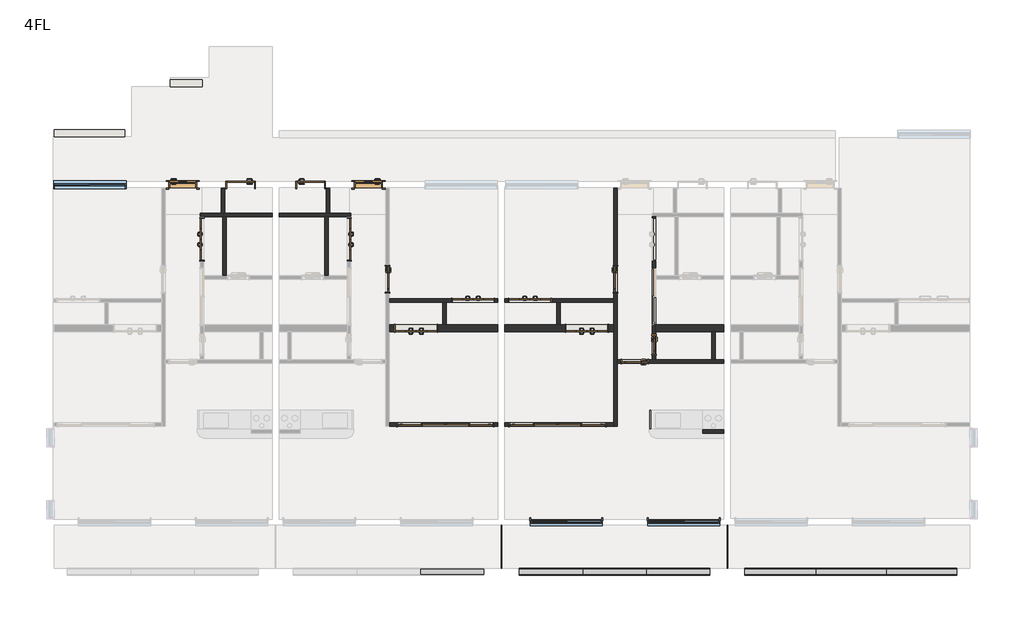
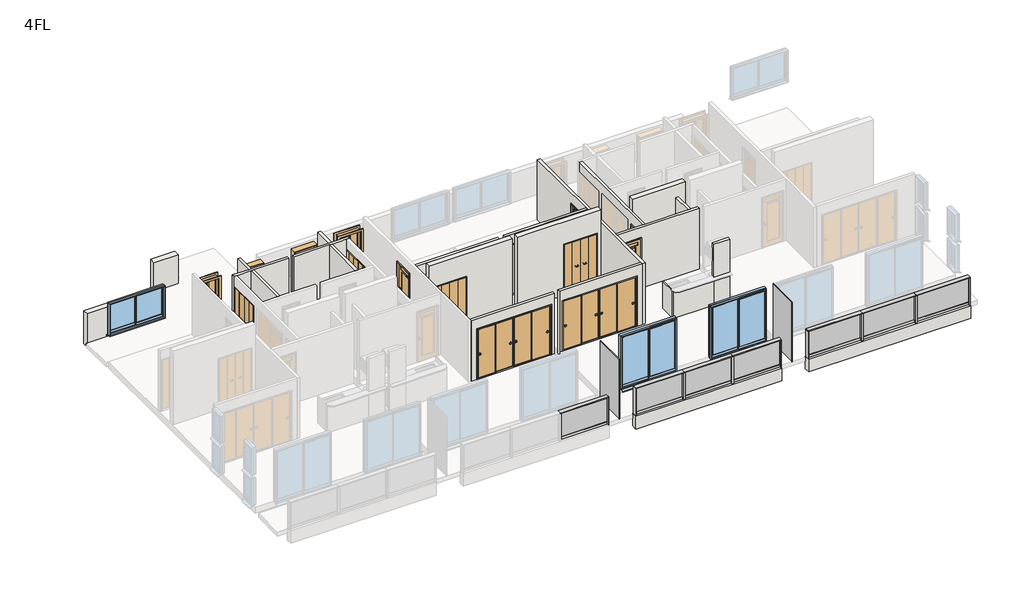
# One storey, part 2 of 3: 26 walls, 16 doors, 16 members, 9 plates, 3 windows.
"""IFC4 building model written with IfcOpenShell, lengths in millimetres."""

from ifc_helpers import new_model, si_unit, frame, origin, place, context, project, spatial, polyline, outline, extrude, faceted_brep, transform, mapped, element, save
from components import door_800x2000_a7d1584b, door_800x2000_010bfebf, w1200h2000_98cacc9b, w1200h2000_ebe1d490, w1200h2000_6a144d60, w1200h2000_99d19fb3, w2800h2000_670b855b, w2800h2000_04aa64cd, w600h2000_7f2747f4, w800h2000_1d97c4d4, w800h2000_0ab7d42c, w800h2000_13e9f519, w800h2000_ccb03061, member_25x150_3f8205e2, member_25x150_f694351b, member_25x150_e95393f9, member_70x150_851c8a9b, plate_6aa9e5b9, plate_9f48129f, plate_365944b3, plate_b830f844, plate_2f85ae4c, window_2000x1200_fc91d1cf, window_2000x2000_f1ff98da

model = new_model("IFC4")

# Units and contexts
model_context = context("Model", 3, world=origin())
ifc_project = project(units=[si_unit("LENGTHUNIT", "METRE", prefix="MILLI")], contexts=[model_context])

# Site, building, storey
site = spatial("IfcSite", under=ifc_project)
building = spatial("IfcBuilding", under=site)
storey = spatial("IfcBuildingStorey", under=building, Name="4FL", Elevation=10000.0)

# Doors
placement = place(None, origin())
door_800x2000_shape = door_800x2000_a7d1584b(model_context)
element("IfcDoor", 1, ObjectType="片開き3 : 800x2000", at=placement, inside=storey, context=model_context, shape_type="MappedRepresentation", body=[
    mapped(door_800x2000_shape, transform((-7378.7187246, -5726.3671638, 10000.0), x_axis=(1.0, 0.0, 0.0), y_axis=(0.0, 1.0, 0.0), z_axis=(0.0, 0.0, 1.0))),
])
door_800x2000_2_shape = door_800x2000_010bfebf(model_context)
element("IfcDoor", 2, ObjectType="片開き3 : 800x2000", at=placement, inside=storey, context=model_context, shape_type="MappedRepresentation", body=[
    mapped(door_800x2000_2_shape, transform((-2078.7187246, -5726.3671638, 10000.0), x_axis=(-1.0, 0.0, 0.0), y_axis=(0.0, -1.0, 0.0), z_axis=(0.0, 0.0, 1.0))),
])
w1200h2000_shape = w1200h2000_98cacc9b(model_context)
element("IfcDoor", 3, ObjectType="木製折戸 : w1200h2000", at=placement, inside=storey, context=model_context, shape_type="MappedRepresentation", body=[
    mapped(w1200h2000_shape, transform((4158.7812754, -9820.1171638, 10100.0), x_axis=(-1.0, 0.0, 0.0), y_axis=(0.0, -1.0, 0.0), z_axis=(0.0, 0.0, 1.0))),
])
w1200h2000_2_shape = w1200h2000_ebe1d490(model_context)
element("IfcDoor", 4, ObjectType="木製折戸 : w1200h2000", at=placement, inside=storey, context=model_context, shape_type="MappedRepresentation", body=[
    mapped(w1200h2000_2_shape, transform((-716.2187246, -9820.1171638, 10100.0), x_axis=(1.0, 0.0, 0.0), y_axis=(0.0, 1.0, 0.0), z_axis=(0.0, 0.0, 1.0))),
])
w1200h2000_3_shape = w1200h2000_6a144d60(model_context)
element("IfcDoor", 5, ObjectType="木製折戸 : w1200h2000", at=placement, inside=storey, context=model_context, shape_type="MappedRepresentation", body=[
    mapped(w1200h2000_3_shape, transform((-6828.7187246, -7280.1171638, 10100.0), x_axis=(0.0, 1.0, 0.0), y_axis=(-1.0, 0.0, 0.0), z_axis=(0.0, 0.0, 1.0))),
])
element("IfcDoor", 6, ObjectType="木製折戸 : w1200h2000", at=placement, inside=storey, context=model_context, shape_type="MappedRepresentation", body=[
    mapped(w1200h2000_3_shape, transform((2533.7812754, -9020.1171638, 10100.0), x_axis=(1.0, 0.0, 0.0), y_axis=(0.0, 1.0, 0.0), z_axis=(0.0, 0.0, 1.0))),
])
w1200h2000_4_shape = w1200h2000_99d19fb3(model_context)
element("IfcDoor", 7, ObjectType="木製折戸 : w1200h2000", at=placement, inside=storey, context=model_context, shape_type="MappedRepresentation", body=[
    mapped(w1200h2000_4_shape, transform((908.7812754, -9020.1171638, 10100.0), x_axis=(-1.0, 0.0, 0.0), y_axis=(0.0, -1.0, 0.0), z_axis=(0.0, 0.0, 1.0))),
])
element("IfcDoor", 8, ObjectType="木製折戸 : w1200h2000", at=placement, inside=storey, context=model_context, shape_type="MappedRepresentation", body=[
    mapped(w1200h2000_4_shape, transform((-2628.7187246, -7280.1171638, 10100.0), x_axis=(0.0, 1.0, 0.0), y_axis=(-1.0, 0.0, 0.0), z_axis=(0.0, 0.0, 1.0))),
])
w2800h2000_shape = w2800h2000_670b855b(model_context)
element("IfcDoor", 9, ObjectType="引違い 4 枚 2 溝_襖 : w2800h2000", at=placement, inside=storey, context=model_context, shape_type="MappedRepresentation", body=[
    mapped(w2800h2000_shape, transform((3315.7457714, -12570.1171638, 10100.0), x_axis=(-1.0, 0.0, 0.0), y_axis=(0.0, -1.0, 0.0), z_axis=(0.0, 0.0, 1.0))),
])
w2800h2000_2_shape = w2800h2000_04aa64cd(model_context)
element("IfcDoor", 10, ObjectType="引違い 4 枚 2 溝_襖 : w2800h2000", at=placement, inside=storey, context=model_context, shape_type="MappedRepresentation", body=[
    mapped(w2800h2000_2_shape, transform((126.8167793, -12570.1171638, 10100.0), x_axis=(1.0, 0.0, 0.0), y_axis=(0.0, 1.0, 0.0), z_axis=(0.0, 0.0, 1.0))),
])
w600h2000_shape = w600h2000_7f2747f4(model_context)
element("IfcDoor", 11, ObjectType="片開戸CL2058 : w600h2000", at=placement, inside=storey, context=model_context, shape_type="MappedRepresentation", body=[
    mapped(w600h2000_shape, transform((6071.2812754, -10295.1171638, 10100.0), x_axis=(0.0, -1.0, 0.0), y_axis=(1.0, 0.0, 0.0), z_axis=(0.0, 0.0, 1.0))),
])
w800h2000_shape = w800h2000_1d97c4d4(model_context)
element("IfcDoor", 12, ObjectType="片開 : w800h2000", at=placement, inside=storey, context=model_context, shape_type="MappedRepresentation", body=[
    mapped(w800h2000_shape, transform((-5728.7187246, -5726.3671638, 10000.0), x_axis=(-1.0, 0.0, 0.0), y_axis=(0.0, -1.0, 0.0), z_axis=(0.0, 0.0, 1.0))),
])
w800h2000_2_shape = w800h2000_0ab7d42c(model_context)
element("IfcDoor", 13, ObjectType="片開 : w800h2000", at=placement, inside=storey, context=model_context, shape_type="MappedRepresentation", body=[
    mapped(w800h2000_2_shape, transform((-3728.7187246, -5726.3671638, 10000.0), x_axis=(1.0, 0.0, 0.0), y_axis=(0.0, 1.0, 0.0), z_axis=(0.0, 0.0, 1.0))),
])
w800h2000_3_shape = w800h2000_13e9f519(model_context)
element("IfcDoor", 14, ObjectType="片開戸CL2058 : w800h2000", at=placement, inside=storey, context=model_context, shape_type="MappedRepresentation", body=[
    mapped(w800h2000_3_shape, transform((4971.2812754, -8420.1171638, 10100.0), x_axis=(0.0, -1.0, 0.0), y_axis=(1.0, 0.0, 0.0), z_axis=(0.0, 0.0, 1.0))),
])
w800h2000_4_shape = w800h2000_ccb03061(model_context)
element("IfcDoor", 15, ObjectType="片開戸CL2058 : w800h2000", at=placement, inside=storey, context=model_context, shape_type="MappedRepresentation", body=[
    mapped(w800h2000_4_shape, transform((-1528.7187246, -8420.1171638, 10100.0), x_axis=(0.0, -1.0, 0.0), y_axis=(1.0, 0.0, 0.0), z_axis=(0.0, 0.0, 1.0))),
])
element("IfcDoor", 16, ObjectType="片開戸CL2058 : w800h2000", at=placement, inside=storey, context=model_context, shape_type="MappedRepresentation", body=[
    mapped(w800h2000_4_shape, transform((5521.2812754, -10770.1171638, 10100.0), x_axis=(-1.0, 0.0, 0.0), y_axis=(0.0, -1.0, 0.0), z_axis=(0.0, 0.0, 1.0))),
])

# Members
member_25x150_shape = member_25x150_3f8205e2(model_context)
element("IfcMember", 17, ObjectType="長方形のマリオン : 25x150", at=placement, inside=storey, context=model_context, shape_type="MappedRepresentation", body=[
    mapped(member_25x150_shape, transform((1221.2812754, -16770.1171638, 10000.0), x_axis=(1.0, 0.0, 0.0), y_axis=(0.0, -1.0, 0.0), z_axis=(0.0, 0.0, -1.0))),
])
element("IfcMember", 18, ObjectType="長方形のマリオン : 25x150", at=placement, inside=storey, context=model_context, shape_type="MappedRepresentation", body=[
    mapped(member_25x150_shape, transform((7671.2812754, -16770.1171638, 10000.0), x_axis=(1.0, 0.0, 0.0), y_axis=(0.0, -1.0, 0.0), z_axis=(0.0, 0.0, -1.0))),
])
element("IfcMember", 19, ObjectType="長方形のマリオン : 25x150", at=placement, inside=storey, context=model_context, shape_type="MappedRepresentation", body=[
    mapped(member_25x150_shape, transform((14721.2812754, -16770.1171638, 10000.0), x_axis=(1.0, 0.0, 0.0), y_axis=(0.0, -1.0, 0.0), z_axis=(0.0, 0.0, -1.0))),
])
element("IfcMember", 20, ObjectType="長方形のマリオン : 25x150", at=placement, inside=storey, context=model_context, shape_type="MappedRepresentation", body=[
    mapped(member_25x150_shape, transform((2221.2812754, -16770.1171638, 11075.0), x_axis=(-1.0, 0.0, 0.0), y_axis=(0.0, -1.0, 0.0), z_axis=(0.0, 0.0, 1.0))),
])
element("IfcMember", 21, ObjectType="長方形のマリオン : 25x150", at=placement, inside=storey, context=model_context, shape_type="MappedRepresentation", body=[
    mapped(member_25x150_shape, transform((8671.2812754, -16770.1171638, 11075.0), x_axis=(-1.0, 0.0, 0.0), y_axis=(0.0, -1.0, 0.0), z_axis=(0.0, 0.0, 1.0))),
])
member_25x150_2_shape = member_25x150_f694351b(model_context)
element("IfcMember", 22, ObjectType="長方形のマリオン : 25x150", at=placement, inside=storey, context=model_context, shape_type="MappedRepresentation", body=[
    mapped(member_25x150_2_shape, transform((1221.2812754, -16770.1171638, 11100.0), x_axis=(0.0, 0.0, 1.0), y_axis=(0.0, -1.0, 0.0), z_axis=(1.0, 0.0, 0.0))),
])
element("IfcMember", 23, ObjectType="長方形のマリオン : 25x150", at=placement, inside=storey, context=model_context, shape_type="MappedRepresentation", body=[
    mapped(member_25x150_2_shape, transform((7671.2812754, -16770.1171638, 11100.0), x_axis=(0.0, 0.0, 1.0), y_axis=(0.0, -1.0, 0.0), z_axis=(1.0, 0.0, 0.0))),
])
element("IfcMember", 24, ObjectType="長方形のマリオン : 25x150", at=placement, inside=storey, context=model_context, shape_type="MappedRepresentation", body=[
    mapped(member_25x150_2_shape, transform((4037.947942, -16770.1171638, 11100.0), x_axis=(0.0, 0.0, 1.0), y_axis=(0.0, -1.0, 0.0), z_axis=(1.0, 0.0, 0.0))),
])
element("IfcMember", 25, ObjectType="長方形のマリオン : 25x150", at=placement, inside=storey, context=model_context, shape_type="MappedRepresentation", body=[
    mapped(member_25x150_2_shape, transform((5854.6146087, -16770.1171638, 11100.0), x_axis=(0.0, 0.0, 1.0), y_axis=(0.0, -1.0, 0.0), z_axis=(1.0, 0.0, 0.0))),
])
member_25x150_3_shape = member_25x150_e95393f9(model_context)
element("IfcMember", 26, ObjectType="長方形のマリオン : 25x150", at=placement, inside=storey, context=model_context, shape_type="MappedRepresentation", body=[
    mapped(member_25x150_3_shape, transform((14721.2812754, -16770.1171638, 11100.0), x_axis=(0.0, 0.0, 1.0), y_axis=(0.0, -1.0, 0.0), z_axis=(1.0, 0.0, 0.0))),
])
element("IfcMember", 27, ObjectType="長方形のマリオン : 25x150", at=placement, inside=storey, context=model_context, shape_type="MappedRepresentation", body=[
    mapped(member_25x150_3_shape, transform((10687.947942, -16770.1171638, 11100.0), x_axis=(0.0, 0.0, 1.0), y_axis=(0.0, -1.0, 0.0), z_axis=(1.0, 0.0, 0.0))),
])
element("IfcMember", 28, ObjectType="長方形のマリオン : 25x150", at=placement, inside=storey, context=model_context, shape_type="MappedRepresentation", body=[
    mapped(member_25x150_3_shape, transform((12704.6146087, -16770.1171638, 11100.0), x_axis=(0.0, 0.0, 1.0), y_axis=(0.0, -1.0, 0.0), z_axis=(1.0, 0.0, 0.0))),
])
member_70x150_shape = member_70x150_851c8a9b(model_context)
element("IfcMember", 29, ObjectType="長方形のマリオン : 70x150", at=placement, inside=storey, context=model_context, shape_type="MappedRepresentation", body=[
    mapped(member_70x150_shape, transform((4037.947942, -16770.1171638, 10000.0), x_axis=(1.0, 0.0, 0.0), y_axis=(0.0, -1.0, 0.0), z_axis=(0.0, 0.0, -1.0))),
])
element("IfcMember", 30, ObjectType="長方形のマリオン : 70x150", at=placement, inside=storey, context=model_context, shape_type="MappedRepresentation", body=[
    mapped(member_70x150_shape, transform((5854.6146087, -16770.1171638, 10000.0), x_axis=(1.0, 0.0, 0.0), y_axis=(0.0, -1.0, 0.0), z_axis=(0.0, 0.0, -1.0))),
])
element("IfcMember", 31, ObjectType="長方形のマリオン : 70x150", at=placement, inside=storey, context=model_context, shape_type="MappedRepresentation", body=[
    mapped(member_70x150_shape, transform((10687.947942, -16770.1171638, 10000.0), x_axis=(1.0, 0.0, 0.0), y_axis=(0.0, -1.0, 0.0), z_axis=(0.0, 0.0, -1.0))),
])
element("IfcMember", 32, ObjectType="長方形のマリオン : 70x150", at=placement, inside=storey, context=model_context, shape_type="MappedRepresentation", body=[
    mapped(member_70x150_shape, transform((12704.6146087, -16770.1171638, 10000.0), x_axis=(1.0, 0.0, 0.0), y_axis=(0.0, -1.0, 0.0), z_axis=(0.0, 0.0, -1.0))),
])

# Plates
plate_shape = plate_6aa9e5b9(model_context)
element("IfcPlate", 33, ObjectType="システム パネル : 標準", at=placement, inside=storey, context=model_context, shape_type="MappedRepresentation", body=[
    mapped(plate_shape, transform((1721.2812754, -16056.9921638, 9950.0), x_axis=(0.0, -1.0, 0.0), y_axis=(1.0, 0.0, 0.0), z_axis=(0.0, 0.0, 1.0))),
])
element("IfcPlate", 34, ObjectType="システム パネル : 標準", at=placement, inside=storey, context=model_context, shape_type="MappedRepresentation", body=[
    mapped(plate_shape, transform((8171.2812754, -16056.9921638, 9950.0), x_axis=(0.0, -1.0, 0.0), y_axis=(1.0, 0.0, 0.0), z_axis=(0.0, 0.0, 1.0))),
])
plate_2_shape = plate_9f48129f(model_context)
element("IfcPlate", 35, ObjectType="r パネル FIX 下框付 : 框 H100", at=placement, inside=storey, context=model_context, shape_type="MappedRepresentation", body=[
    mapped(plate_2_shape, transform((317.947942, -16770.1171638, 10000.0), x_axis=(1.0, 0.0, 0.0), y_axis=(0.0, 1.0, 0.0), z_axis=(0.0, 0.0, 1.0))),
])
element("IfcPlate", 36, ObjectType="r パネル FIX 下框付 : 框 H100", at=placement, inside=storey, context=model_context, shape_type="MappedRepresentation", body=[
    mapped(plate_2_shape, transform((3124.6146087, -16770.1171638, 10000.0), x_axis=(1.0, 0.0, 0.0), y_axis=(0.0, 1.0, 0.0), z_axis=(0.0, 0.0, 1.0))),
])
element("IfcPlate", 37, ObjectType="r パネル FIX 下框付 : 框 H100", at=placement, inside=storey, context=model_context, shape_type="MappedRepresentation", body=[
    mapped(plate_2_shape, transform((6767.947942, -16770.1171638, 10000.0), x_axis=(1.0, 0.0, 0.0), y_axis=(0.0, 1.0, 0.0), z_axis=(0.0, 0.0, 1.0))),
])
plate_3_shape = plate_365944b3(model_context)
element("IfcPlate", 38, ObjectType="r パネル FIX 下框付 : 框 H100", at=placement, inside=storey, context=model_context, shape_type="MappedRepresentation", body=[
    mapped(plate_3_shape, transform((4946.2812754, -16770.1171638, 10000.0), x_axis=(1.0, 0.0, 0.0), y_axis=(0.0, 1.0, 0.0), z_axis=(0.0, 0.0, 1.0))),
])
plate_4_shape = plate_b830f844(model_context)
element("IfcPlate", 39, ObjectType="r パネル FIX 下框付 : 框 H100", at=placement, inside=storey, context=model_context, shape_type="MappedRepresentation", body=[
    mapped(plate_4_shape, transform((9674.6146087, -16770.1171638, 10000.0), x_axis=(1.0, 0.0, 0.0), y_axis=(0.0, 1.0, 0.0), z_axis=(0.0, 0.0, 1.0))),
])
element("IfcPlate", 40, ObjectType="r パネル FIX 下框付 : 框 H100", at=placement, inside=storey, context=model_context, shape_type="MappedRepresentation", body=[
    mapped(plate_4_shape, transform((13717.947942, -16770.1171638, 10000.0), x_axis=(1.0, 0.0, 0.0), y_axis=(0.0, 1.0, 0.0), z_axis=(0.0, 0.0, 1.0))),
])
plate_5_shape = plate_2f85ae4c(model_context)
element("IfcPlate", 41, ObjectType="r パネル FIX 下框付 : 框 H100", at=placement, inside=storey, context=model_context, shape_type="MappedRepresentation", body=[
    mapped(plate_5_shape, transform((11696.2812754, -16770.1171638, 10000.0), x_axis=(1.0, 0.0, 0.0), y_axis=(0.0, 1.0, 0.0), z_axis=(0.0, 0.0, 1.0))),
])

# Walls
element("IfcWall", 42, ObjectType="内壁(R)RC200", at=placement, inside=storey, context=model_context, shape_type="Brep", body=[
    faceted_brep([(1621.2812754, -9720.1171638, 10000.0), (146.2812754, -9720.1171638, 10000.0), (46.2812754, -9720.1171638, 10000.0), (-1478.7187246, -9720.1171638, 10000.0), (-1478.7187246, -9720.1171638, 13000.0), (1621.2812754, -9720.1171638, 13000.0), (-96.2187246, -9720.1171638, 12120.0), (-1336.2187246, -9720.1171638, 12120.0), (-1336.2187246, -9720.1171638, 10100.0), (-96.2187246, -9720.1171638, 10100.0), (1621.2812754, -9920.1171638, 10000.0), (1621.2812754, -9920.1171638, 13000.0), (-1478.7187246, -9920.1171638, 13000.0), (-1478.7187246, -9920.1171638, 10000.0), (-96.2187246, -9920.1171638, 12120.0), (-96.2187246, -9920.1171638, 10100.0), (-1336.2187246, -9920.1171638, 10100.0), (-1336.2187246, -9920.1171638, 12120.0)], [[[0, 1, 2, 3, 4, 5], [6, 7, 8, 9]], [[10, 11, 12, 13], [14, 15, 16, 17]], [[3, 2, 1, 0, 10, 13]], [[5, 4, 12, 11]], [[15, 14, 6, 9]], [[16, 15, 9, 8]], [[17, 16, 8, 7]], [[14, 17, 7, 6]], [[0, 5, 11, 10]], [[4, 3, 13, 12]]]),
])
element("IfcWall", 43, ObjectType="内壁(R)RC200", at=placement, inside=storey, context=model_context, shape_type="Brep", body=[
    faceted_brep([(1821.2812754, -9920.1171638, 10000.0), (4921.2812754, -9920.1171638, 10000.0), (4921.2812754, -9920.1171638, 13000.0), (1821.2812754, -9920.1171638, 13000.0), (3538.7812754, -9920.1171638, 12120.0), (4778.7812754, -9920.1171638, 12120.0), (4778.7812754, -9920.1171638, 10100.0), (3538.7812754, -9920.1171638, 10100.0), (1821.2812754, -9720.1171638, 10000.0), (1821.2812754, -9720.1171638, 13000.0), (4921.2812754, -9720.1171638, 13000.0), (4921.2812754, -9720.1171638, 10000.0), (3396.2812754, -9720.1171638, 10000.0), (3296.2812754, -9720.1171638, 10000.0), (3538.7812754, -9720.1171638, 12120.0), (3538.7812754, -9720.1171638, 10100.0), (4778.7812754, -9720.1171638, 10100.0), (4778.7812754, -9720.1171638, 12120.0)], [[[0, 1, 2, 3], [4, 5, 6, 7]], [[8, 9, 10, 11, 12, 13], [14, 15, 16, 17]], [[1, 0, 8, 13, 12, 11]], [[3, 2, 10, 9]], [[15, 14, 4, 7]], [[16, 15, 7, 6]], [[17, 16, 6, 5]], [[14, 17, 5, 4]], [[0, 3, 9, 8]], [[2, 1, 11, 10]]]),
])
element("IfcWall", 44, ObjectType="内壁(R)RC200", at=placement, inside=storey, context=model_context, shape_type="Brep", body=[
    faceted_brep([(6121.2812754, -9920.1171638, 10000.0), (7721.2812754, -9920.1171638, 10000.0), (7821.2812754, -9920.1171638, 10000.0), (8071.2812754, -9920.1171638, 10000.0), (8071.2812754, -9920.1171638, 13000.0), (6121.2812754, -9920.1171638, 13000.0), (6121.2812754, -9720.1171638, 10000.0), (6121.2812754, -9720.1171638, 13000.0), (8071.2812754, -9720.1171638, 13000.0), (8071.2812754, -9720.1171638, 10000.0)], [[[0, 1, 2, 3, 4, 5]], [[6, 7, 8, 9]], [[3, 2, 1, 0, 6, 9]], [[5, 4, 8, 7]], [[0, 5, 7, 6]], [[4, 3, 9, 8]]]),
])
element("IfcWall", 45, ObjectType="(R)RC200", at=placement, inside=storey, context=model_context, shape_type="SweptSolid", body=[
    extrude(outline(polyline([(-9028.7187246, -4350.1171638), (-11052.4687246, -4350.1171638), (-11052.4687246, -4150.1171638), (-9028.7187246, -4150.1171638), (-9028.7187246, -4350.1171638)])), frame((0.0, 0.0, 9800.0), z_axis=(0.0, 0.0, 1.0), x_axis=(1.0, 0.0, 0.0)), (0.0, 0.0, 1.0), 1300.0),
])
element("IfcWall", 46, ObjectType="(R)RC200", at=placement, inside=storey, context=model_context, shape_type="SweptSolid", body=[
    extrude(outline(polyline([(7671.2812754, -16870.1171638), (2221.2812754, -16870.1171638), (2221.2812754, -16670.1171638), (7671.2812754, -16670.1171638), (7671.2812754, -16870.1171638)])), frame((0.0, 0.0, 9500.0), z_axis=(0.0, 0.0, 1.0), x_axis=(1.0, 0.0, 0.0)), (0.0, 0.0, 1.0), 500.0),
])
element("IfcWall", 47, ObjectType="(R)RC200", at=placement, inside=storey, context=model_context, shape_type="SweptSolid", body=[
    extrude(outline(polyline([(14721.2812754, -16870.1171638), (8671.2812754, -16870.1171638), (8671.2812754, -16670.1171638), (14721.2812754, -16670.1171638), (14721.2812754, -16870.1171638)])), frame((0.0, 0.0, 9500.0), z_axis=(0.0, 0.0, 1.0), x_axis=(1.0, 0.0, 0.0)), (0.0, 0.0, 1.0), 500.0),
])
element("IfcWall", 48, ObjectType="(R)RC200", at=placement, inside=storey, context=model_context, shape_type="SweptSolid", body=[
    extrude(outline(polyline([(-6828.7187246, -2920.1171638), (-7728.7187246, -2920.1171638), (-7728.7187246, -2720.1171638), (-6828.7187246, -2720.1171638), (-6828.7187246, -2920.1171638)])), frame((0.0, 0.0, 9950.0), z_axis=(0.0, 0.0, 1.0), x_axis=(1.0, 0.0, 0.0)), (0.0, 0.0, 1.0), 1150.0),
])
element("IfcWall", 49, ObjectType="(F)30", at=placement, inside=storey, context=model_context, shape_type="SweptSolid", body=[
    extrude(outline(polyline([(5948.8875596, -12720.1171638), (5948.8875596, -12165.1171638), (5978.8875596, -12165.1171638), (5978.8875596, -12720.1171638), (5948.8875596, -12720.1171638)])), frame((0.0, 0.0, 10100.0), z_axis=(0.0, 0.0, 1.0), x_axis=(1.0, 0.0, 0.0)), (0.0, 0.0, 1.0), 1060.0),
])
element("IfcWall", 50, ObjectType="(L1)LGS100", at=placement, inside=storey, context=model_context, shape_type="Brep", body=[
    faceted_brep([(-6878.7187246, -6630.1171638, 10000.0), (-6778.7187246, -6630.1171638, 10000.0), (-6238.7187246, -6630.1171638, 10000.0), (-6138.7187246, -6630.1171638, 10000.0), (-4828.7187246, -6630.1171638, 10000.0), (-4828.7187246, -6630.1171638, 12500.0), (-6138.7187246, -6630.1171638, 12500.0), (-6238.7187246, -6630.1171638, 12500.0), (-6778.7187246, -6630.1171638, 12500.0), (-6878.7187246, -6630.1171638, 12500.0), (-6878.7187246, -6530.1171638, 10000.0), (-6878.7187246, -6530.1171638, 12500.0), (-6278.7187246, -6530.1171638, 12500.0), (-6178.7187246, -6530.1171638, 12500.0), (-4828.7187246, -6530.1171638, 12500.0), (-4828.7187246, -6530.1171638, 10000.0), (-6178.7187246, -6530.1171638, 10000.0), (-6278.7187246, -6530.1171638, 10000.0)], [[[0, 1, 2, 3, 4, 5, 6, 7, 8, 9]], [[10, 11, 12, 13, 14, 15, 16, 17]], [[4, 3, 2, 1, 0, 10, 17, 16, 15]], [[9, 8, 7, 6, 5, 14, 13, 12, 11]], [[0, 9, 11, 10]], [[5, 4, 15, 14]]]),
])
element("IfcWall", 51, ObjectType="(L1)LGS100", at=placement, inside=storey, context=model_context, shape_type="SweptSolid", body=[
    extrude(outline(polyline([(-6178.7187246, -5826.3671638), (-6178.7187246, -6530.1171638), (-6278.7187246, -6530.1171638), (-6278.7187246, -5826.3671638), (-6178.7187246, -5826.3671638)])), frame((0.0, 0.0, 10000.0), z_axis=(0.0, 0.0, 1.0), x_axis=(1.0, 0.0, 0.0)), (0.0, 0.0, 1.0), 2500.0),
])
element("IfcWall", 52, ObjectType="(L1)LGS100", at=placement, inside=storey, context=model_context, shape_type="SweptSolid", body=[
    extrude(outline(polyline([(-6138.7187246, -6630.1171638), (-6138.7187246, -8320.1171638), (-6238.7187246, -8320.1171638), (-6238.7187246, -6630.1171638), (-6138.7187246, -6630.1171638)])), frame((0.0, 0.0, 10000.0), z_axis=(0.0, 0.0, 1.0), x_axis=(1.0, 0.0, 0.0)), (0.0, 0.0, 1.0), 2500.0),
])
element("IfcWall", 53, ObjectType="(L1)LGS100", at=placement, inside=storey, context=model_context, shape_type="Brep", body=[
    faceted_brep([(1621.2812754, -8970.1171638, 10000.0), (-1478.7187246, -8970.1171638, 10000.0), (-1478.7187246, -8970.1171638, 12500.0), (1621.2812754, -8970.1171638, 12500.0), (288.7812754, -8970.1171638, 12120.0), (288.7812754, -8970.1171638, 10100.0), (1528.7812754, -8970.1171638, 10100.0), (1528.7812754, -8970.1171638, 12120.0), (-1478.7187246, -9070.1171638, 10000.0), (46.2812754, -9070.1171638, 10000.0), (146.2812754, -9070.1171638, 10000.0), (1621.2812754, -9070.1171638, 10000.0), (1621.2812754, -9070.1171638, 12500.0), (146.2812754, -9070.1171638, 12500.0), (46.2812754, -9070.1171638, 12500.0), (-1478.7187246, -9070.1171638, 12500.0), (288.7812754, -9070.1171638, 10100.0), (288.7812754, -9070.1171638, 12120.0), (1528.7812754, -9070.1171638, 12120.0), (1528.7812754, -9070.1171638, 10100.0)], [[[0, 1, 2, 3], [4, 5, 6, 7]], [[8, 9, 10, 11, 12, 13, 14, 15], [16, 17, 18, 19]], [[1, 0, 11, 10, 9, 8]], [[3, 2, 15, 14, 13, 12]], [[2, 1, 8, 15]], [[4, 17, 16, 5]], [[5, 16, 19, 6]], [[17, 4, 7, 18]], [[18, 7, 6, 19]], [[0, 3, 12, 11]]]),
])
element("IfcWall", 54, ObjectType="(L1)LGS100", at=placement, inside=storey, context=model_context, shape_type="SweptSolid", body=[
    extrude(outline(polyline([(146.2812754, -9070.1171638), (146.2812754, -9720.1171638), (46.2812754, -9720.1171638), (46.2812754, -9070.1171638), (146.2812754, -9070.1171638)])), frame((0.0, 0.0, 10000.0), z_axis=(0.0, 0.0, 1.0), x_axis=(1.0, 0.0, 0.0)), (0.0, 0.0, 1.0), 2500.0),
])
element("IfcWall", 55, ObjectType="(L1)LGS100", at=placement, inside=storey, context=model_context, shape_type="Brep", body=[
    faceted_brep([(-2578.7187246, -6530.1171638, 10000.0), (-3178.7187246, -6530.1171638, 10000.0), (-3278.7187246, -6530.1171638, 10000.0), (-4628.7187246, -6530.1171638, 10000.0), (-4628.7187246, -6530.1171638, 12500.0), (-3278.7187246, -6530.1171638, 12500.0), (-3178.7187246, -6530.1171638, 12500.0), (-2578.7187246, -6530.1171638, 12500.0), (-2578.7187246, -6630.1171638, 10000.0), (-2578.7187246, -6630.1171638, 12500.0), (-2678.7187246, -6630.1171638, 12500.0), (-3218.7187246, -6630.1171638, 12500.0), (-3318.7187246, -6630.1171638, 12500.0), (-4628.7187246, -6630.1171638, 12500.0), (-4628.7187246, -6630.1171638, 10000.0), (-3318.7187246, -6630.1171638, 10000.0), (-3218.7187246, -6630.1171638, 10000.0), (-2678.7187246, -6630.1171638, 10000.0)], [[[0, 1, 2, 3, 4, 5, 6, 7]], [[8, 9, 10, 11, 12, 13, 14, 15, 16, 17]], [[3, 2, 1, 0, 8, 17, 16, 15, 14]], [[7, 6, 5, 4, 13, 12, 11, 10, 9]], [[0, 7, 9, 8]], [[4, 3, 14, 13]]]),
])
element("IfcWall", 56, ObjectType="(L1)LGS100", at=placement, inside=storey, context=model_context, shape_type="SweptSolid", body=[
    extrude(outline(polyline([(-3178.7187246, -5826.3671638), (-3178.7187246, -6530.1171638), (-3278.7187246, -6530.1171638), (-3278.7187246, -5826.3671638), (-3178.7187246, -5826.3671638)])), frame((0.0, 0.0, 10000.0), z_axis=(0.0, 0.0, 1.0), x_axis=(1.0, 0.0, 0.0)), (0.0, 0.0, 1.0), 2500.0),
])
element("IfcWall", 57, ObjectType="(L1)LGS100", at=placement, inside=storey, context=model_context, shape_type="SweptSolid", body=[
    extrude(outline(polyline([(-3218.7187246, -6630.1171638), (-3218.7187246, -8320.1171638), (-3318.7187246, -8320.1171638), (-3318.7187246, -6630.1171638), (-3218.7187246, -6630.1171638)])), frame((0.0, 0.0, 10000.0), z_axis=(0.0, 0.0, 1.0), x_axis=(1.0, 0.0, 0.0)), (0.0, 0.0, 1.0), 2500.0),
])
element("IfcWall", 58, ObjectType="(L1)LGS100", at=placement, inside=storey, context=model_context, shape_type="SweptSolid", body=[
    extrude(outline(polyline([(10000.0, 1621.2812754), (12500.0, 1621.2812754), (12500.0, -1478.7187246), (10000.0, -1478.7187246), (10000.0, 1621.2812754)]), holes=[polyline([(12100.0, 1521.2812754), (10100.0, 1521.2812754), (10100.0, -1278.7187246), (12100.0, -1278.7187246), (12100.0, 1521.2812754)])]), frame((0.0, -12620.1171638, 0.0), z_axis=(0.0, 1.0, 0.0), x_axis=(0.0, 0.0, 1.0)), (0.0, 0.0, 1.0), 100.0),
])
element("IfcWall", 59, ObjectType="(L1)LGS100", at=placement, inside=storey, context=model_context, shape_type="Brep", body=[
    faceted_brep([(1821.2812754, -9070.1171638, 10000.0), (3296.2812754, -9070.1171638, 10000.0), (3396.2812754, -9070.1171638, 10000.0), (4921.2812754, -9070.1171638, 10000.0), (4921.2812754, -9070.1171638, 12500.0), (3396.2812754, -9070.1171638, 12500.0), (3296.2812754, -9070.1171638, 12500.0), (1821.2812754, -9070.1171638, 12500.0), (3153.7812754, -9070.1171638, 12120.0), (3153.7812754, -9070.1171638, 10100.0), (1913.7812754, -9070.1171638, 10100.0), (1913.7812754, -9070.1171638, 12120.0), (4921.2812754, -8970.1171638, 10000.0), (1821.2812754, -8970.1171638, 10000.0), (1821.2812754, -8970.1171638, 12500.0), (4921.2812754, -8970.1171638, 12500.0), (3153.7812754, -8970.1171638, 10100.0), (3153.7812754, -8970.1171638, 12120.0), (1913.7812754, -8970.1171638, 12120.0), (1913.7812754, -8970.1171638, 10100.0)], [[[0, 1, 2, 3, 4, 5, 6, 7], [8, 9, 10, 11]], [[12, 13, 14, 15], [16, 17, 18, 19]], [[3, 2, 1, 0, 13, 12]], [[7, 6, 5, 4, 15, 14]], [[4, 3, 12, 15]], [[8, 17, 16, 9]], [[9, 16, 19, 10]], [[17, 8, 11, 18]], [[18, 11, 10, 19]], [[0, 7, 14, 13]]]),
])
element("IfcWall", 60, ObjectType="(L1)LGS100", at=placement, inside=storey, context=model_context, shape_type="SweptSolid", body=[
    extrude(outline(polyline([(3396.2812754, -9070.1171638), (3396.2812754, -9720.1171638), (3296.2812754, -9720.1171638), (3296.2812754, -9070.1171638), (3396.2812754, -9070.1171638)])), frame((0.0, 0.0, 10000.0), z_axis=(0.0, 0.0, 1.0), x_axis=(1.0, 0.0, 0.0)), (0.0, 0.0, 1.0), 2500.0),
])
element("IfcWall", 61, ObjectType="(L1)LGS100", at=placement, inside=storey, context=model_context, shape_type="Brep", body=[
    faceted_brep([(5021.2812754, -12620.1171638, 10000.0), (5021.2812754, -10820.1171638, 10000.0), (5021.2812754, -10720.1171638, 10000.0), (5021.2812754, -5826.3671638, 10000.0), (5021.2812754, -5826.3671638, 12500.0), (5021.2812754, -10720.1171638, 12500.0), (5021.2812754, -10820.1171638, 12500.0), (5021.2812754, -12620.1171638, 12500.0), (5021.2812754, -8820.1171638, 10100.0), (5021.2812754, -8820.1171638, 12100.0), (5021.2812754, -8020.1171638, 12100.0), (5021.2812754, -8020.1171638, 10100.0), (4921.2812754, -12620.1171638, 10000.0), (4921.2812754, -12620.1171638, 12500.0), (4921.2812754, -12520.1171638, 12500.0), (4921.2812754, -9070.1171638, 12500.0), (4921.2812754, -8970.1171638, 12500.0), (4921.2812754, -5826.3671638, 12500.0), (4921.2812754, -5826.3671638, 10000.0), (4921.2812754, -8970.1171638, 10000.0), (4921.2812754, -9070.1171638, 10000.0), (4921.2812754, -9720.1171638, 10000.0), (4921.2812754, -9920.1171638, 10000.0), (4921.2812754, -12520.1171638, 10000.0), (4921.2812754, -8820.1171638, 10100.0), (4921.2812754, -8020.1171638, 10100.0), (4921.2812754, -8020.1171638, 12100.0), (4921.2812754, -8820.1171638, 12100.0)], [[[0, 1, 2, 3, 4, 5, 6, 7], [8, 9, 10, 11]], [[12, 13, 14, 15, 16, 17, 18, 19, 20, 21, 22, 23], [24, 25, 26, 27]], [[3, 2, 1, 0, 12, 23, 22, 21, 20, 19, 18]], [[7, 6, 5, 4, 17, 16, 15, 14, 13]], [[0, 7, 13, 12]], [[9, 8, 24, 27]], [[10, 9, 27, 26]], [[11, 10, 26, 25]], [[8, 11, 25, 24]], [[4, 3, 18, 17]]]),
])
element("IfcWall", 62, ObjectType="(L1)LGS100", at=placement, inside=storey, context=model_context, shape_type="Brep", body=[
    faceted_brep([(6121.2812754, -10720.1171638, 10000.0), (6121.2812754, -9920.1171638, 10000.0), (6121.2812754, -9720.1171638, 10000.0), (6121.2812754, -8420.1171638, 10000.0), (6121.2812754, -8320.1171638, 10000.0), (6121.2812754, -6630.1171638, 10000.0), (6121.2812754, -6630.1171638, 12500.0), (6121.2812754, -8320.1171638, 12500.0), (6121.2812754, -8420.1171638, 12500.0), (6121.2812754, -10720.1171638, 12500.0), (6121.2812754, -10595.1171638, 10100.0), (6121.2812754, -10595.1171638, 12100.0), (6121.2812754, -9995.1171638, 12100.0), (6121.2812754, -9995.1171638, 10100.0), (6121.2812754, -6660.1171638, 10100.0), (6121.2812754, -7900.1171638, 10100.0), (6121.2812754, -7900.1171638, 12120.0), (6121.2812754, -6660.1171638, 12120.0), (6121.2812754, -9745.1171638, 10100.0), (6121.2812754, -9745.1171638, 12140.0), (6121.2812754, -8095.1171638, 12140.0), (6121.2812754, -8095.1171638, 10100.0), (6021.2812754, -6630.1171638, 10000.0), (6021.2812754, -10720.1171638, 10000.0), (6021.2812754, -10720.1171638, 12500.0), (6021.2812754, -6630.1171638, 12500.0), (6021.2812754, -10595.1171638, 12100.0), (6021.2812754, -10595.1171638, 10100.0), (6021.2812754, -9995.1171638, 10100.0), (6021.2812754, -9995.1171638, 12100.0), (6021.2812754, -7900.1171638, 10100.0), (6021.2812754, -6660.1171638, 10100.0), (6021.2812754, -6660.1171638, 12120.0), (6021.2812754, -7900.1171638, 12120.0), (6021.2812754, -9745.1171638, 10100.0), (6021.2812754, -8095.1171638, 10100.0), (6021.2812754, -8095.1171638, 12140.0), (6021.2812754, -9745.1171638, 12140.0)], [[[0, 1, 2, 3, 4, 5, 6, 7, 8, 9], [10, 11, 12, 13], [14, 15, 16, 17], [18, 19, 20, 21]], [[22, 23, 24, 25], [26, 27, 28, 29], [30, 31, 32, 33], [34, 35, 36, 37]], [[5, 4, 3, 2, 1, 0, 23, 22]], [[9, 8, 7, 6, 25, 24]], [[0, 9, 24, 23]], [[11, 10, 27, 26]], [[12, 11, 26, 29]], [[13, 12, 29, 28]], [[10, 13, 28, 27]], [[14, 31, 30, 15]], [[15, 30, 33, 16]], [[16, 33, 32, 17]], [[19, 18, 34, 37]], [[20, 19, 37, 36]], [[21, 20, 36, 35]], [[18, 21, 35, 34]], [[31, 14, 17, 32]], [[6, 5, 22, 25]]]),
])
element("IfcWall", 63, ObjectType="(L1)LGS100", at=placement, inside=storey, context=model_context, shape_type="SweptSolid", body=[
    extrude(outline(polyline([(7821.2812754, -9920.1171638), (7821.2812754, -10720.1171638), (7721.2812754, -10720.1171638), (7721.2812754, -9920.1171638), (7821.2812754, -9920.1171638)])), frame((0.0, 0.0, 10000.0), z_axis=(0.0, 0.0, 1.0), x_axis=(1.0, 0.0, 0.0)), (0.0, 0.0, 1.0), 2500.0),
])
element("IfcWall", 64, ObjectType="(L1)LGS100", at=placement, inside=storey, context=model_context, shape_type="Brep", body=[
    faceted_brep([(5021.2812754, -10820.1171638, 10000.0), (8071.2812754, -10820.1171638, 10000.0), (8071.2812754, -10820.1171638, 12500.0), (5021.2812754, -10820.1171638, 12500.0), (5121.2812754, -10820.1171638, 10100.0), (5121.2812754, -10820.1171638, 12100.0), (5921.2812754, -10820.1171638, 12100.0), (5921.2812754, -10820.1171638, 10100.0), (8071.2812754, -10720.1171638, 10000.0), (7821.2812754, -10720.1171638, 10000.0), (7721.2812754, -10720.1171638, 10000.0), (6121.2812754, -10720.1171638, 10000.0), (6021.2812754, -10720.1171638, 10000.0), (5021.2812754, -10720.1171638, 10000.0), (5021.2812754, -10720.1171638, 12500.0), (6021.2812754, -10720.1171638, 12500.0), (6121.2812754, -10720.1171638, 12500.0), (7721.2812754, -10720.1171638, 12500.0), (7821.2812754, -10720.1171638, 12500.0), (8071.2812754, -10720.1171638, 12500.0), (5121.2812754, -10720.1171638, 12100.0), (5121.2812754, -10720.1171638, 10100.0), (5921.2812754, -10720.1171638, 10100.0), (5921.2812754, -10720.1171638, 12100.0)], [[[0, 1, 2, 3], [4, 5, 6, 7]], [[8, 9, 10, 11, 12, 13, 14, 15, 16, 17, 18, 19], [20, 21, 22, 23]], [[1, 0, 13, 12, 11, 10, 9, 8]], [[3, 2, 19, 18, 17, 16, 15, 14]], [[0, 3, 14, 13]], [[4, 21, 20, 5]], [[5, 20, 23, 6]], [[6, 23, 22, 7]], [[21, 4, 7, 22]], [[2, 1, 8, 19]]]),
])
element("IfcWall", 65, ObjectType="(L1)LGS100", at=placement, inside=storey, context=model_context, shape_type="SweptSolid", body=[
    extrude(outline(polyline([(10000.0, 1821.2812754), (10000.0, 4921.2812754), (12500.0, 4921.2812754), (12500.0, 1821.2812754), (10000.0, 1821.2812754)]), holes=[polyline([(12100.0, 1921.2812754), (12100.0, 4721.2812754), (10100.0, 4721.2812754), (10100.0, 1921.2812754), (12100.0, 1921.2812754)])]), frame((0.0, -12620.1171638, 0.0), z_axis=(0.0, 1.0, 0.0), x_axis=(0.0, 0.0, 1.0)), (0.0, 0.0, 1.0), 100.0),
])
element("IfcWall", 66, ObjectType="(L1)LGS100", at=placement, inside=storey, context=model_context, shape_type="Brep", body=[
    faceted_brep([(8071.2812754, -12720.1171638, 10000.0), (7471.2812754, -12720.1171638, 10000.0), (7471.2812754, -12720.1171638, 11160.0), (7471.2812754, -12720.1171638, 12500.0), (8071.2812754, -12720.1171638, 12500.0), (8071.2812754, -12820.1171638, 10000.0), (8071.2812754, -12820.1171638, 12500.0), (7471.2812754, -12820.1171638, 12500.0), (7471.2812754, -12820.1171638, 11160.0), (7471.2812754, -12820.1171638, 10000.0)], [[[0, 1, 2, 3, 4]], [[5, 6, 7, 8, 9]], [[1, 0, 5, 9]], [[3, 2, 1, 9, 8, 7]], [[4, 3, 7, 6]], [[0, 4, 6, 5]]]),
])
element("IfcWall", 67, ObjectType="(L1)LGS100", at=placement, inside=storey, context=model_context, shape_type="Brep", body=[
    faceted_brep([(5948.8875596, -12820.1171638, 10000.0), (7471.2812754, -12820.1171638, 10000.0), (7471.2812754, -12820.1171638, 11160.0), (5948.8875596, -12820.1171638, 11160.0), (5948.8875596, -12720.1171638, 10000.0), (5948.8875596, -12720.1171638, 10100.0), (5948.8875596, -12720.1171638, 11160.0), (5978.8875596, -12720.1171638, 11160.0), (7471.2812754, -12720.1171638, 11160.0), (7471.2812754, -12720.1171638, 10000.0)], [[[0, 1, 2, 3]], [[4, 5, 6, 7, 8, 9]], [[1, 0, 4, 9]], [[2, 1, 9, 8]], [[3, 2, 8, 7, 6]], [[0, 3, 6, 5, 4]]]),
])

# Windows
window_2000x1200_shape = window_2000x1200_fc91d1cf(model_context)
element("IfcWindow", 68, ObjectType="鋼製_一般枠_引違い-二枚 : 2000x1200", at=placement, inside=storey, context=model_context, shape_type="MappedRepresentation", body=[
    mapped(window_2000x1200_shape, transform((-10028.7187246, -5726.3671638, 10250.0), x_axis=(1.0, 0.0, 0.0), y_axis=(0.0, 1.0, 0.0), z_axis=(0.0, 0.0, 1.0))),
])
window_2000x2000_shape = window_2000x2000_f1ff98da(model_context)
element("IfcWindow", 69, ObjectType="鋼製_一般枠_引違い-二枚 : 2000x2000", at=placement, inside=storey, context=model_context, shape_type="MappedRepresentation", body=[
    mapped(window_2000x2000_shape, transform((3571.2812754, -15343.8671638, 9200.0), x_axis=(-1.0, 0.0, 0.0), y_axis=(0.0, -1.0, 0.0), z_axis=(0.0, 0.0, 1.0))),
])
element("IfcWindow", 70, ObjectType="鋼製_一般枠_引違い-二枚 : 2000x2000", at=placement, inside=storey, context=model_context, shape_type="MappedRepresentation", body=[
    mapped(window_2000x2000_shape, transform((6921.2812754, -15343.8671638, 9200.0), x_axis=(-1.0, 0.0, 0.0), y_axis=(0.0, -1.0, 0.0), z_axis=(0.0, 0.0, 1.0))),
])

save(model, "model.ifc")
